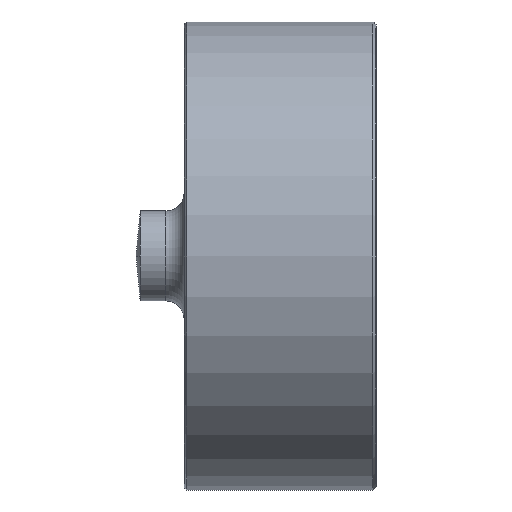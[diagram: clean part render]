
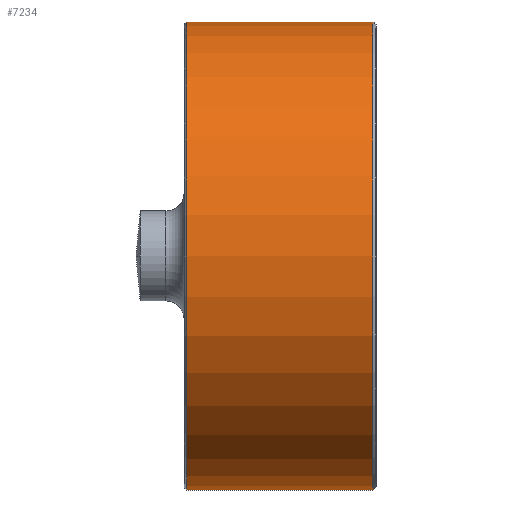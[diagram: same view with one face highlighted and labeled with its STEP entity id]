
A CAD part, left-side view. The second image highlights one B-rep face of the part: STEP entity #7234.
In plain terms, the highlighted cylindrical face has radius 39 mm (diameter 78 mm), a partial arc.
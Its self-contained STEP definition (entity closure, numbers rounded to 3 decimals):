
#123 = CYLINDRICAL_SURFACE ( 'NONE', #13760, 39. ) ;
#1259 = DIRECTION ( 'NONE',  ( 0., 0., -1. ) ) ;
#1689 = DIRECTION ( 'NONE',  ( 0., 0., -1. ) ) ;
#1871 = CARTESIAN_POINT ( 'NONE',  ( 0., 0.5, 39. ) ) ;
#2408 = CARTESIAN_POINT ( 'NONE',  ( 0., 0.5, 0. ) ) ;
#2427 = ORIENTED_EDGE ( 'NONE', *, *, #15817, .T. ) ;
#2831 = AXIS2_PLACEMENT_3D ( 'NONE', #2408, #18172, #4148 ) ;
#3154 = ORIENTED_EDGE ( 'NONE', *, *, #17009, .F. ) ;
#4148 = DIRECTION ( 'NONE',  ( 0., 0., -1. ) ) ;
#4537 = ORIENTED_EDGE ( 'NONE', *, *, #9215, .F. ) ;
#6412 = DIRECTION ( 'NONE',  ( 0., -1., 0. ) ) ;
#6944 = LINE ( 'NONE', #8795, #12684 ) ;
#7234 = ADVANCED_FACE ( 'NONE', ( #17147 ), #123, .T. ) ;
#8657 = VERTEX_POINT ( 'NONE', #14691 ) ;
#8795 = CARTESIAN_POINT ( 'NONE',  ( 0., 0., -39. ) ) ;
#9215 = EDGE_CURVE ( 'NONE', #8657, #10189, #20359, .T. ) ;
#9405 = CIRCLE ( 'NONE', #2831, 39. ) ;
#9429 = VERTEX_POINT ( 'NONE', #11276 ) ;
#10189 = VERTEX_POINT ( 'NONE', #1871 ) ;
#10794 = CARTESIAN_POINT ( 'NONE',  ( 0., 0.5, -39. ) ) ;
#10959 = CARTESIAN_POINT ( 'NONE',  ( 0., 0., 0. ) ) ;
#11276 = CARTESIAN_POINT ( 'NONE',  ( 0., 31.5, -39. ) ) ;
#12195 = CARTESIAN_POINT ( 'NONE',  ( 0., 31.5, 0. ) ) ;
#12315 = CARTESIAN_POINT ( 'NONE',  ( 0., 0., 39. ) ) ;
#12684 = VECTOR ( 'NONE', #15098, 1000. ) ;
#12985 = AXIS2_PLACEMENT_3D ( 'NONE', #12195, #13628, #1259 ) ;
#12986 = ORIENTED_EDGE ( 'NONE', *, *, #19493, .T. ) ;
#13628 = DIRECTION ( 'NONE',  ( 0., -1., 0. ) ) ;
#13760 = AXIS2_PLACEMENT_3D ( 'NONE', #10959, #13949, #1689 ) ;
#13949 = DIRECTION ( 'NONE',  ( 0., -1., 0. ) ) ;
#14691 = CARTESIAN_POINT ( 'NONE',  ( 0., 31.5, 39. ) ) ;
#14860 = EDGE_LOOP ( 'NONE', ( #4537, #12986, #2427, #3154 ) ) ;
#15098 = DIRECTION ( 'NONE',  ( 0., -1., 0. ) ) ;
#15817 = EDGE_CURVE ( 'NONE', #9429, #18585, #6944, .T. ) ;
#15951 = CIRCLE ( 'NONE', #12985, 39. ) ;
#17009 = EDGE_CURVE ( 'NONE', #10189, #18585, #9405, .T. ) ;
#17147 = FACE_OUTER_BOUND ( 'NONE', #14860, .T. ) ;
#18051 = VECTOR ( 'NONE', #6412, 1000. ) ;
#18172 = DIRECTION ( 'NONE',  ( 0., -1., 0. ) ) ;
#18585 = VERTEX_POINT ( 'NONE', #10794 ) ;
#19493 = EDGE_CURVE ( 'NONE', #8657, #9429, #15951, .T. ) ;
#20359 = LINE ( 'NONE', #12315, #18051 ) ;
